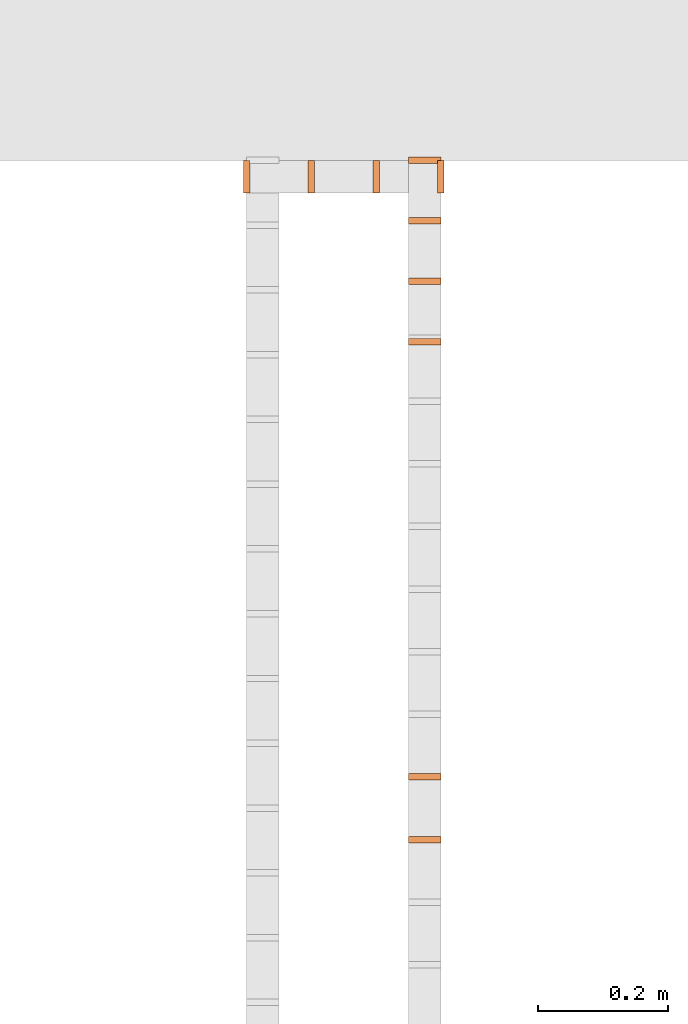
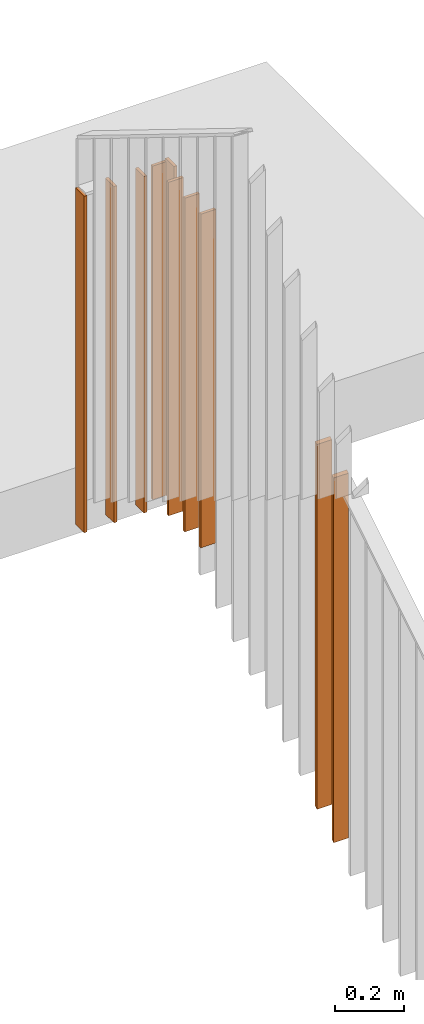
# One storey, part 76 of 100: 10 proxies, 3 elements without a shape of their own.
"""IFC2X3 building model written with IfcOpenShell, lengths in millimetres."""

from ifc_helpers import new_model, entity, si_unit, converted_unit, derived_unit, money_unit, direction, frame, origin_with_axes, place, context, subcontext, project, spatial, faceted_brep, source, transform, mapped, material, type_object, element, aggregate, save


model = new_model("IFC2X3")

# Units and contexts
model_context = context("Model", 3, precision=0.01, world=origin_with_axes(), true_north=direction((0.0, 1.0)))
body_context = subcontext(model_context, "Body", "Model", "MODEL_VIEW")
ifc_project = project(units=[si_unit("LENGTHUNIT", "METRE", prefix="MILLI"), si_unit("AREAUNIT", "SQUARE_METRE"), si_unit("VOLUMEUNIT", "CUBIC_METRE"), converted_unit("PLANEANGLEUNIT", "DEGREE", entity("IfcPlaneAngleMeasure", 0.0174532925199), si_unit("PLANEANGLEUNIT", "RADIAN"), dimensions=[0, 0, 0, 0, 0, 0, 0]), si_unit("SOLIDANGLEUNIT", "STERADIAN"), money_unit("EUR"), converted_unit("TIMEUNIT", "Year", entity("IfcTimeMeasure", 31556926.0), si_unit("TIMEUNIT", "SECOND"), dimensions=[0, 0, 1, 0, 0, 0, 0]), si_unit("MASSUNIT", "GRAM", prefix="KILO"), si_unit("THERMODYNAMICTEMPERATUREUNIT", "DEGREE_CELSIUS"), si_unit("LUMINOUSINTENSITYUNIT", "LUMEN"), si_unit("ENERGYUNIT", "JOULE", prefix="MEGA"), derived_unit("THERMALCONDUCTANCEUNIT", [(si_unit("POWERUNIT", "WATT"), 1), (si_unit("LENGTHUNIT", "METRE"), -1), (si_unit("THERMODYNAMICTEMPERATUREUNIT", "KELVIN"), -1)]), derived_unit("SPECIFICHEATCAPACITYUNIT", [(si_unit("ENERGYUNIT", "JOULE"), 1), (si_unit("MASSUNIT", "GRAM", prefix="KILO"), -1), (si_unit("THERMODYNAMICTEMPERATUREUNIT", "KELVIN"), -1)]), derived_unit("MASSDENSITYUNIT", [(si_unit("MASSUNIT", "GRAM", prefix="KILO"), 1), (si_unit("VOLUMEUNIT", "CUBIC_METRE"), -1)])], contexts=[model_context])

# Site, building, storey
site_placement = place(None, origin_with_axes())
site = spatial("IfcSite", under=ifc_project, at=site_placement, Name="Politse- ja Piirivalveameti ning Päästeameti ühishoone", CompositionType="ELEMENT")
building_placement = place(site_placement, origin_with_axes())
building = spatial("IfcBuilding", under=site, at=building_placement, Name="Politse- ja Piirivalveameti ning Päästeameti ühishoone", CompositionType="ELEMENT")
storey_placement = place(building_placement, frame((0.0, 0.0, 3800.0), z_axis=(0.0, 0.0, 1.0), x_axis=(1.0, 0.0, 0.0)))
storey = spatial("IfcBuildingStorey", under=building, at=storey_placement, Name="Teine korrus", CompositionType="ELEMENT", Elevation=3800.0)

# Railing, proxies
railing_type = type_object("IfcRailingType", Name="Railing Type", PredefinedType="NOTDEFINED")
railing_1_placement = place(storey_placement, frame((61660.557259, 19348.024656, -3925.83291166), z_axis=(0.0, 0.0, 1.0), x_axis=(-1.0, 0.0, 0.0)))
railing_1 = element("IfcRailing", 1, at=railing_1_placement, inside=storey, type_object=railing_type, Name="TREPIPIIR 1", PredefinedType="NOTDEFINED")
ifc_material = material(Name="Teras - Konstruktsioon")
building_element_proxy_type = type_object("IfcBuildingElementProxyType", Name="IfcBuildingElementProxy", PredefinedType="NOTDEFINED")
shared_shape_1 = source(origin_with_axes(), body_context, "Body", "Brep", [
    faceted_brep([(25.0, 5.0, -3.08185890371), (-25.0, 5.0, -3.08185890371), (-25.0, 5.0, 1286.91815365), (25.0, 5.0, 1286.91815365), (25.0, -5.0, 3.08185890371), (-25.0, -5.0, 3.08185890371), (-25.0, -5.0, 1293.08187146), (25.0, -5.0, 1293.08187146)], [[[0, 1, 2, 3]], [[0, 4, 5, 1]], [[1, 5, 6, 2]], [[3, 2, 6, 7]], [[4, 0, 3, 7]], [[5, 4, 7, 6]]]),
])
proxy_1_placement = place(railing_1_placement, frame((25.0, 896.865676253, 1251.97859933), z_axis=(0.0, 0.0, 1.0), x_axis=(-1.0, 0.0, 0.0)))
proxy_1 = element("IfcBuildingElementProxy", 2, at=proxy_1_placement, type_object=building_element_proxy_type, material=ifc_material, Name="BALUSTER - 001", context=body_context, shape_type="MappedRepresentation", body=[
    mapped(shared_shape_1, transform((0.0, 0.0, 0.0), x_axis=(-1.0, 0.0, 0.0), y_axis=(0.0, -1.0, 0.0), z_axis=(0.0, 0.0, 1.0))),
])
shared_shape_2 = source(origin_with_axes(), body_context, "Body", "Brep", [
    faceted_brep([(25.0, 5.0, -3.08185890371), (-25.0, 5.0, -3.08185890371), (-25.0, 5.0, 1286.91815365), (25.0, 5.0, 1286.91815365), (25.0, -5.0, 3.08185890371), (-25.0, -5.0, 3.08185890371), (-25.0, -5.0, 1293.08187146), (25.0, -5.0, 1293.08187146)], [[[0, 1, 2, 3]], [[0, 4, 5, 1]], [[1, 5, 6, 2]], [[3, 2, 6, 7]], [[4, 0, 3, 7]], [[5, 4, 7, 6]]]),
])
proxy_2_placement = place(railing_1_placement, frame((25.0, 800.141538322, 1311.59662847), z_axis=(0.0, 0.0, 1.0), x_axis=(-1.0, 0.0, 0.0)))
proxy_2 = element("IfcBuildingElementProxy", 3, at=proxy_2_placement, type_object=building_element_proxy_type, material=ifc_material, Name="BALUSTER - 001", context=body_context, shape_type="MappedRepresentation", body=[
    mapped(shared_shape_2, transform((0.0, 0.0, 0.0), x_axis=(-1.0, 0.0, 0.0), y_axis=(0.0, -1.0, 0.0), z_axis=(0.0, 0.0, 1.0))),
])
aggregate(railing_1, [proxy_2, proxy_1])

railing_2_placement = place(storey_placement, frame((64283.6244846, 19499.9520832, -2100.0), z_axis=(0.0, 0.0, 1.0), x_axis=(0.0, 1.0, 0.0)))
railing_2 = element("IfcRailing", 4, at=railing_2_placement, inside=storey, type_object=railing_type, Name="TREPIPIIRE 3", PredefinedType="NOTDEFINED")
shared_shape_3 = source(origin_with_axes(), body_context, "Body", "Brep", [
    faceted_brep([(25.0, 5.0, 0.0), (-25.0, 5.0, 0.0), (-25.0, 4.99999999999, 1190.0), (25.0, 4.99999999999, 1190.0), (25.0, -5.0, 0.0), (-25.0, -5.0, 0.0), (-25.0, -5.00000000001, 1190.0), (25.0, -5.00000000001, 1190.0)], [[[0, 1, 2, 3]], [[0, 4, 5, 1]], [[1, 5, 6, 2]], [[3, 2, 6, 7]], [[4, 0, 3, 7]], [[5, 4, 7, 6]]]),
])
proxy_3_placement = place(railing_2_placement, frame((-25.0, 2623.06722558, 0.0), z_axis=(0.0, 0.0, 1.0), x_axis=(0.0, -1.0, 0.0)))
proxy_3 = element("IfcBuildingElementProxy", 5, at=proxy_3_placement, type_object=building_element_proxy_type, material=ifc_material, Name="PIIRDE POST - 001", context=body_context, shape_type="MappedRepresentation", body=[
    mapped(shared_shape_3, transform((0.0, 0.0, 0.0), x_axis=(0.0, 1.0, 0.0), y_axis=(-1.0, 0.0, 0.0), z_axis=(0.0, 0.0, 1.0))),
])
proxy_4_placement = place(railing_2_placement, frame((-25.0, 2923.0725728, 0.0), z_axis=(0.0, 0.0, 1.0), x_axis=(0.0, -1.0, 0.0)))
proxy_4 = element("IfcBuildingElementProxy", 6, at=proxy_4_placement, type_object=building_element_proxy_type, material=ifc_material, Name="PIIRDE POST - 001", context=body_context, shape_type="MappedRepresentation", body=[
    mapped(shared_shape_3, transform((0.0, 0.0, 0.0), x_axis=(0.0, 1.0, 0.0), y_axis=(-1.0, 0.0, 0.0), z_axis=(0.0, 0.0, 1.0))),
])
shared_shape_4 = source(origin_with_axes(), body_context, "Body", "Brep", [
    faceted_brep([(25.0, 5.0, 0.0), (-25.0, 5.0, 0.0), (-25.0, 4.99999999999, 1190.00001255), (25.0, 4.99999999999, 1190.00001255), (25.0, -5.0, 0.0), (-25.0, -5.0, 0.0), (-25.0, -5.00000000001, 1190.00001255), (25.0, -5.00000000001, 1190.00001255)], [[[0, 1, 2, 3]], [[0, 4, 5, 1]], [[1, 5, 6, 2]], [[3, 2, 6, 7]], [[4, 0, 3, 7]], [[5, 4, 7, 6]]]),
])
proxy_5_placement = place(railing_2_placement, frame((-25.0, 2723.06900799, -1.25516996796e-05), z_axis=(0.0, 0.0, 1.0), x_axis=(0.0, -1.0, 0.0)))
proxy_5 = element("IfcBuildingElementProxy", 7, at=proxy_5_placement, type_object=building_element_proxy_type, material=ifc_material, Name="BALUSTER - 001", context=body_context, shape_type="MappedRepresentation", body=[
    mapped(shared_shape_4, transform((0.0, 0.0, 0.0), x_axis=(0.0, 1.0, 0.0), y_axis=(-1.0, 0.0, 0.0), z_axis=(0.0, 0.0, 1.0))),
])
proxy_6_placement = place(railing_2_placement, frame((-25.0, 2823.0707904, -1.25516996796e-05), z_axis=(0.0, 0.0, 1.0), x_axis=(0.0, -1.0, 0.0)))
proxy_6 = element("IfcBuildingElementProxy", 8, at=proxy_6_placement, type_object=building_element_proxy_type, material=ifc_material, Name="BALUSTER - 001", context=body_context, shape_type="MappedRepresentation", body=[
    mapped(shared_shape_4, transform((0.0, 0.0, 0.0), x_axis=(0.0, 1.0, 0.0), y_axis=(-1.0, 0.0, 0.0), z_axis=(0.0, 0.0, 1.0))),
])
aggregate(railing_2, [proxy_3, proxy_4, proxy_5, proxy_6])

railing_3_placement = place(storey_placement, frame((61660.557259, 16622.7081554, -2100.0), z_axis=(0.0, 0.0, 1.0), x_axis=(-1.0, 0.0, 0.0)))
railing_3 = element("IfcRailing", 9, at=railing_3_placement, inside=storey, type_object=railing_type, Name="TREPIPIIRE 2", PredefinedType="NOTDEFINED")
shared_shape_5 = source(origin_with_axes(), body_context, "Body", "Brep", [
    faceted_brep([(25.0, 5.0, 0.0), (-25.0, 5.0, 0.0), (-25.0, 5.0, 1180.0), (25.0, 5.0, 1180.0), (25.0, -5.0, 0.0), (-25.0, -5.0, 0.0), (-25.0, -5.0, 1180.0), (25.0, -5.0, 1180.0)], [[[0, 1, 2, 3]], [[0, 4, 5, 1]], [[1, 5, 6, 2]], [[3, 2, 6, 7]], [[4, 0, 3, 7]], [[5, 4, 7, 6]]]),
])
proxy_7_placement = place(railing_3_placement, frame((25.0, -2597.24392778, 0.0), z_axis=(0.0, 0.0, 1.0), x_axis=(-1.0, 0.0, 0.0)))
proxy_7 = element("IfcBuildingElementProxy", 10, at=proxy_7_placement, type_object=building_element_proxy_type, material=ifc_material, Name="PIIRDE POST - 001", context=body_context, shape_type="MappedRepresentation", body=[
    mapped(shared_shape_5, transform((0.0, 0.0, 0.0))),
])
proxy_8_placement = place(railing_3_placement, frame((25.0, -2877.24392778, 0.0), z_axis=(0.0, 0.0, 1.0), x_axis=(-1.0, 0.0, 0.0)))
proxy_8 = element("IfcBuildingElementProxy", 11, at=proxy_8_placement, type_object=building_element_proxy_type, material=ifc_material, Name="PIIRDE POST - 001", context=body_context, shape_type="MappedRepresentation", body=[
    mapped(shared_shape_5, transform((0.0, 0.0, 0.0))),
])
shared_shape_6 = source(origin_with_axes(), body_context, "Body", "Brep", [
    faceted_brep([(25.0, 5.0, 0.0), (-25.0, 5.0, 0.0), (-25.0, 5.0, 1180.00001255), (25.0, 5.0, 1180.00001255), (25.0, -5.0, 0.0), (-25.0, -5.0, 0.0), (-25.0, -5.0, 1180.00001255), (25.0, -5.0, 1180.00001255)], [[[0, 1, 2, 3]], [[0, 4, 5, 1]], [[1, 5, 6, 2]], [[3, 2, 6, 7]], [[4, 0, 3, 7]], [[5, 4, 7, 6]]]),
])
proxy_9_placement = place(railing_3_placement, frame((25.0, -2690.57726111, -1.25516996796e-05), z_axis=(0.0, 0.0, 1.0), x_axis=(-1.0, 0.0, 0.0)))
proxy_9 = element("IfcBuildingElementProxy", 12, at=proxy_9_placement, type_object=building_element_proxy_type, material=ifc_material, Name="BALUSTER - 001", context=body_context, shape_type="MappedRepresentation", body=[
    mapped(shared_shape_6, transform((0.0, 0.0, 0.0))),
])
proxy_10_placement = place(railing_3_placement, frame((25.0, -2783.91059445, -1.25516996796e-05), z_axis=(0.0, 0.0, 1.0), x_axis=(-1.0, 0.0, 0.0)))
proxy_10 = element("IfcBuildingElementProxy", 13, at=proxy_10_placement, type_object=building_element_proxy_type, material=ifc_material, Name="BALUSTER - 001", context=body_context, shape_type="MappedRepresentation", body=[
    mapped(shared_shape_6, transform((0.0, 0.0, 0.0))),
])
aggregate(railing_3, [proxy_7, proxy_8, proxy_9, proxy_10])

save(model, "model.ifc")
